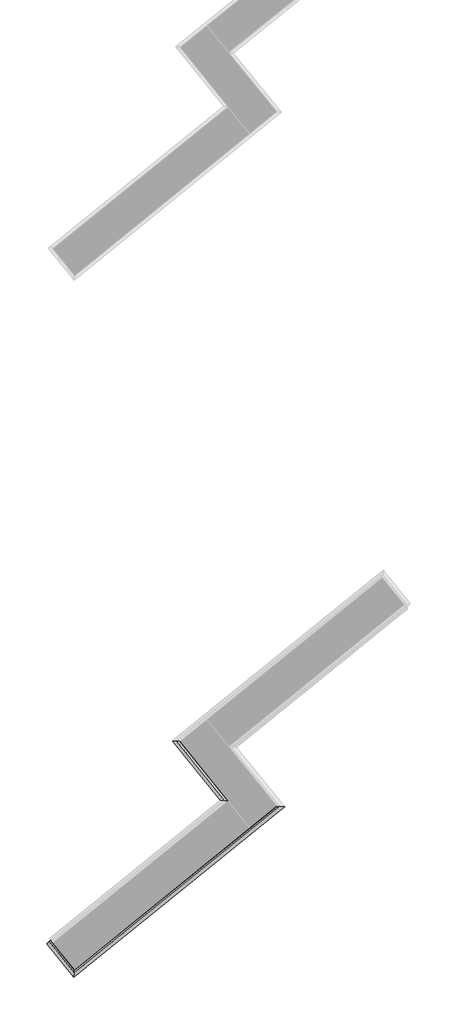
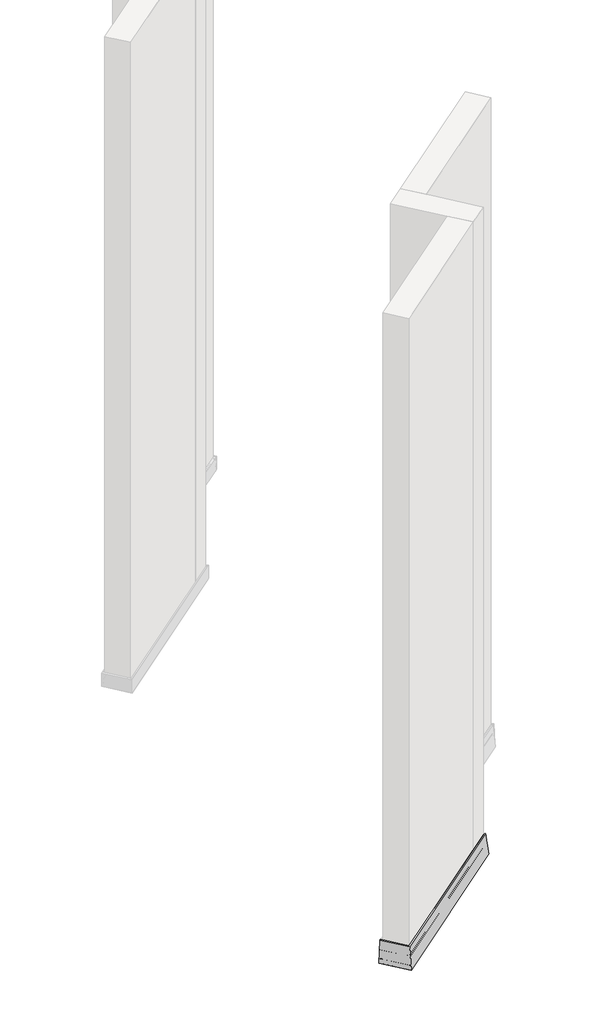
# One storey, part 2 of 21: 2 proxies.
"""IFC4 building model written with IfcOpenShell, lengths in millimetres."""

from ifc_helpers import new_model, si_unit, frame, origin, place, context, project, spatial, circle_curve, ellipse_curve, element, save
from ifc_brep_helpers import plane_surface, cylinder_surface, advanced_brep

model = new_model("IFC4")

# Units and contexts
model_context = context("Model", 3, world=origin())
ifc_project = project(units=[si_unit("LENGTHUNIT", "METRE", prefix="MILLI")], contexts=[model_context])

# Site, building, storey
site = spatial("IfcSite", under=ifc_project)
building = spatial("IfcBuilding", under=site)
storey = spatial("IfcBuildingStorey", under=building, Name="Izofleks 2D View", Elevation=0.0)

# Proxies
placement = place(None, origin())
element("IfcBuildingElementProxy", 1, Name="Wall Sweeps", at=placement, inside=storey, context=model_context, shape_type="AdvancedBrep", body=[
    advanced_brep(
    [(2125.4196152, -9156.5624148, 4.0913258), (2138.4309541, -9157.9299616, 99.0999564), (2144.7063454, -9158.5895318, 99.0999564), (2144.7063454, -9158.5895318, 97.1334422), (2147.4716817, -9158.8801804, 97.1334422), (2147.462354, -9158.8792, 95.8923058), (2142.9025972, -9158.3999503, 95.8923058), (2142.9025972, -9158.3999503, 97.8474508), (2140.0389867, -9158.0989727, 97.8474508), (2134.4354072, -9157.5100127, 59.6553004), (2140.1890187, -9158.1147417, 59.6553004), (2141.5720643, -9158.2601056, 58.8370339), (2143.8756554, -9158.5022228, 49.9746979), (2142.0834754, -9158.3138571, 48.7737404), (2142.7031479, -9158.3789873, 47.88979), (2145.5630003, -9158.6795699, 47.88979), (2145.5630003, -9158.6795699, 53.99999), (2147.3913925, -9158.8717417, 54.99999), (2147.3913925, -9158.8717417, 0.0), (2145.5630003, -9158.6795699, 0.0), (2145.5630003, -9158.6795699, 16.99999), (2138.5310764, -9157.9404849, 16.99999), (2138.5371548, -9157.9411238, 18.30079), (2140.841113, -9158.1832795, 18.30079), (2138.0747265, -9157.8925206, 27.19808), (2138.7780416, -9157.966442, 27.7479135), (2138.160271, -9157.9015117, 29.4074278), (2130.5123846, -9157.0976864, 29.4074278), (2127.3696087, -9156.7673674, 5.4018616), (2131.3758652, -9157.1884419, 5.4018616), (2131.3758652, -9157.1884419, 1.6712284), (2129.532141, -9156.9946587, 1.6712284), (2129.532141, -9156.9946587, 4.0913258), (2263.8701012, -9327.5345263, 4.0913258), (2267.9826271, -9327.9667702, 4.0913258), (2267.9826271, -9327.9667702, 1.6712284), (2269.8263512, -9328.1605534, 1.6712284), (2269.8263512, -9328.1605534, 5.4018616), (2265.8200947, -9327.7394789, 5.4018616), (2268.9628707, -9328.069798, 29.4074278), (2276.6107571, -9328.8736232, 29.4074278), (2277.2285276, -9328.9385535, 27.7479135), (2276.5252126, -9328.8646321, 27.19808), (2279.291599, -9329.1553911, 18.30079), (2276.9876408, -9328.9132353, 18.30079), (2276.9815625, -9328.9125964, 16.99999), (2284.0134863, -9329.6516814, 16.99999), (2284.0134863, -9329.6516814, 0.0), (2285.8418785, -9329.8438532, 0.0), (2285.8418785, -9329.8438532, 54.99999), (2284.0134863, -9329.6516814, 53.99999), (2284.0134863, -9329.6516814, 47.88979), (2281.1536339, -9329.3510988, 47.88979), (2280.5339615, -9329.2859686, 48.7737404), (2282.3261414, -9329.4743343, 49.9746979), (2280.0225504, -9329.2322171, 58.8370339), (2278.6395047, -9329.0868532, 59.6553004), (2272.8858933, -9328.4821243, 59.6553004), (2278.4894727, -9329.0710842, 97.8474508), (2281.3530832, -9329.3720618, 97.8474508), (2281.3530832, -9329.3720618, 95.8923058), (2285.91284, -9329.8513115, 95.8923058), (2285.9221678, -9329.8522919, 97.1334422), (2283.1568314, -9329.5616434, 97.1334422), (2283.1568314, -9329.5616434, 99.0999564), (2276.8814401, -9328.9020732, 99.0999564)],
    [
        (0, 1),
        (1, 2),
        (2, 3),
        (3, 4),
        (4, 5),
        (5, 6),
        (6, 7),
        (7, 8),
        (8, 9),
        (9, 10),
        (10, 11, ellipse_curve(frame((2140.1890187, -9158.1147417, 58.6553004), z_axis=(0.10452846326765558, 0.9945218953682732, 0.0), x_axis=(-0.9945218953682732, 0.10452846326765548, 0.0)), 1.4142136, 1.0)),
        (11, 12),
        (12, 13, ellipse_curve(frame((2142.4039865, -9158.3475442, 49.8084295), z_axis=(0.10452846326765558, 0.9945218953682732, 0.0), x_axis=(-0.9945218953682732, 0.10452846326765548, 0.0)), 1.4983408, 1.0594869)),
        (13, 14),
        (14, 15),
        (15, 16),
        (16, 17, ellipse_curve(frame((2147.0409144, -9158.8349049, 53.9789482), z_axis=(0.10452846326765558, 0.9945218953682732, 0.0), x_axis=(-0.9945218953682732, 0.1045284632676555, 0.0)), 1.4863528, 1.0510102)),
        (17, 18),
        (18, 19),
        (19, 20),
        (20, 21),
        (21, 22, ellipse_curve(frame((2138.7013325, -9157.9583796, 17.649995), z_axis=(0.10452846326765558, 0.9945218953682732, 0.0), x_axis=(-0.9945218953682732, 0.10452846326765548, 0.0)), 0.935051, 0.6611809)),
        (22, 23),
        (23, 24),
        (24, 25, ellipse_curve(frame((2138.7833218, -9157.966997, 27.2421879), z_axis=(0.10452846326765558, 0.9945218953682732, 0.0), x_axis=(-0.994521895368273, 0.10452846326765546, 0.0)), 0.7152237, 0.5057396)),
        (25, 26),
        (26, 27),
        (27, 28),
        (28, 29),
        (29, 30),
        (30, 31),
        (31, 32),
        (32, 0),
        (33, 34),
        (34, 35),
        (35, 36),
        (36, 37),
        (37, 38),
        (38, 39),
        (39, 40),
        (40, 41),
        (41, 42, ellipse_curve(frame((2277.2338078, -9328.9391085, 27.2421879), z_axis=(-0.1045284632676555, -0.9945218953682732, 0.0), x_axis=(-0.9945218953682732, 0.10452846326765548, 0.0)), 0.7152237, 0.5057396)),
        (42, 43),
        (43, 44),
        (44, 45, ellipse_curve(frame((2277.1518186, -9328.9304911, 17.649995), z_axis=(-0.1045284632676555, -0.9945218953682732, 0.0), x_axis=(-0.9945218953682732, 0.1045284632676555, 0.0)), 0.935051, 0.6611809)),
        (45, 46),
        (46, 47),
        (47, 48),
        (48, 49),
        (49, 50, ellipse_curve(frame((2285.4914005, -9329.8070165, 53.9789482), z_axis=(-0.1045284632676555, -0.9945218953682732, 0.0), x_axis=(-0.9945218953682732, 0.10452846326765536, 0.0)), 1.4863528, 1.0510102)),
        (50, 51),
        (51, 52),
        (52, 53),
        (53, 54, ellipse_curve(frame((2280.8544726, -9329.3196557, 49.8084295), z_axis=(-0.1045284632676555, -0.9945218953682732, 0.0), x_axis=(-0.9945218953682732, 0.1045284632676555, 0.0)), 1.4983408, 1.0594869)),
        (54, 55),
        (55, 56, ellipse_curve(frame((2278.6395047, -9329.0868532, 58.6553004), z_axis=(-0.1045284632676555, -0.9945218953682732, 0.0), x_axis=(-0.9945218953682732, 0.1045284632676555, 0.0)), 1.4142136, 1.0)),
        (56, 57),
        (57, 58),
        (58, 59),
        (59, 60),
        (60, 61),
        (61, 62),
        (62, 63),
        (63, 64),
        (64, 65),
        (65, 33),
        (0, 33),
        (65, 1),
        (64, 2),
        (63, 3),
        (62, 4),
        (61, 5),
        (60, 6),
        (59, 7),
        (58, 8),
        (57, 9),
        (56, 10),
        (55, 11),
        (54, 12),
        (53, 13),
        (52, 14),
        (51, 15),
        (50, 16),
        (49, 17),
        (48, 18),
        (47, 19),
        (46, 20),
        (45, 21),
        (44, 22),
        (43, 23),
        (42, 24),
        (41, 25),
        (40, 26),
        (39, 27),
        (38, 28),
        (37, 29),
        (36, 30),
        (35, 31),
        (34, 32),
    ],
    [
        plane_surface(frame((2147.3913925, -9158.8717417, -304.8), z_axis=(0.10452846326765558, 0.9945218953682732, 0.0), x_axis=(0.9945218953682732, -0.10452846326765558, 0.0))),
        plane_surface(frame((2285.8418785, -9329.8438532, 304.8), z_axis=(-0.1045284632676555, -0.9945218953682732, 0.0), x_axis=(-0.9945218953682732, 0.1045284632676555, 0.0))),
        plane_surface(frame((2125.4196152, -9156.5624148, 4.0913258), z_axis=(-0.7734878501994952, -0.6263581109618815, 0.09691265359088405), x_axis=(0.6293203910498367, -0.7771459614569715, 0.0))),
        plane_surface(frame((2138.4309541, -9157.9299616, 99.0999564), z_axis=(0.0, 0.0, 1.0), x_axis=(0.6293203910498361, -0.777145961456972, 0.0))),
        plane_surface(frame((2144.7063454, -9158.5895318, 99.0999564), z_axis=(0.777145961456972, 0.6293203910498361, 0.0), x_axis=(0.6293203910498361, -0.777145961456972, 0.0))),
        plane_surface(frame((2144.7063454, -9158.5895318, 97.1334422), z_axis=(0.0, 0.0, 1.0), x_axis=(0.6293203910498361, -0.777145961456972, 0.0))),
        plane_surface(frame((2147.4716817, -9158.8801804, 97.1334422), z_axis=(0.7771348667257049, 0.6293114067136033, -0.0053434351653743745), x_axis=(0.6293203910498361, -0.777145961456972, 0.0))),
        plane_surface(frame((2147.462354, -9158.8792, 95.8923058), z_axis=(0.0, 0.0, -1.0), x_axis=(0.6293203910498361, -0.777145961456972, 0.0))),
        plane_surface(frame((2142.9025972, -9158.3999503, 95.8923058), z_axis=(-0.777145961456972, -0.6293203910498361, 0.0), x_axis=(0.6293203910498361, -0.777145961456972, 0.0))),
        plane_surface(frame((2142.9025972, -9158.3999503, 97.8474508), z_axis=(0.0, 0.0, -1.0), x_axis=(0.6293203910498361, -0.777145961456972, 0.0))),
        plane_surface(frame((2140.0389867, -9158.0989727, 97.8474508), z_axis=(0.7729515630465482, 0.6259238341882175, -0.1037556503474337), x_axis=(0.6293203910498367, -0.7771459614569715, 0.0))),
        plane_surface(frame((2134.4354072, -9157.5100127, 59.6553004), z_axis=(0.0, 0.0, 1.0), x_axis=(0.6293203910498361, -0.777145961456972, 0.0))),
        cylinder_surface(frame((2143.4117056, -9162.0944286, 58.6553004), z_axis=(-0.629320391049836, 0.7771459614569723, 0.0), x_axis=(0.7642047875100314, 0.618840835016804, 0.1817334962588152)), 1.0),
        plane_surface(frame((2141.5720643, -9158.2601056, 58.8370339), z_axis=(0.7642047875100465, 0.6188408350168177, 0.18173349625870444), x_axis=(0.6293203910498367, -0.7771459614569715, 0.0))),
        cylinder_surface(frame((2144.6355908, -9161.1033459, 49.8084295), z_axis=(-0.6293203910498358, 0.7771459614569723, 0.0), x_axis=(-0.16715552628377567, -0.1353598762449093, -0.9765944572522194)), 1.0594869),
        plane_surface(frame((2142.0834754, -9158.3138571, 48.7737404), z_axis=(0.6955364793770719, 0.5632343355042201, 0.44608977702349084), x_axis=(0.6293203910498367, -0.7771459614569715, 0.0))),
        plane_surface(frame((2142.7031479, -9158.3789873, 47.88979), z_axis=(0.0, 0.0, 1.0), x_axis=(0.6293203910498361, -0.777145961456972, 0.0))),
        plane_surface(frame((2145.5630003, -9158.6795699, 47.88979), z_axis=(-0.777145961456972, -0.6293203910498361, 0.0), x_axis=(0.6293203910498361, -0.777145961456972, 0.0))),
        cylinder_surface(frame((2147.1977351, -9159.0285623, 53.9789482), z_axis=(-0.6293203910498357, 0.7771459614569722, 0.0), x_axis=(0.18425834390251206, 0.14920946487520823, 0.9714861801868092)), 1.0510102),
        plane_surface(frame((2147.3913925, -9158.8717417, 54.99999), z_axis=(0.777145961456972, 0.6293203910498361, 0.0), x_axis=(0.6293203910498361, -0.777145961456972, 0.0))),
        plane_surface(frame((2147.3913925, -9158.8717417, 0.0), z_axis=(0.0, 0.0, -1.0), x_axis=(0.6293203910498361, -0.777145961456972, 0.0))),
        plane_surface(frame((2145.5630003, -9158.6795699, 0.0), z_axis=(-0.777145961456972, -0.6293203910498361, 0.0), x_axis=(0.6293203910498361, -0.777145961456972, 0.0))),
        plane_surface(frame((2145.5630003, -9158.6795699, 16.99999), z_axis=(0.0, 0.0, -1.0), x_axis=(0.6293203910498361, -0.777145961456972, 0.0))),
        cylinder_surface(frame((2142.5896815, -9162.7600906, 17.649995), z_axis=(-0.6293203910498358, 0.7771459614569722, 0.0), x_axis=(-0.1422838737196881, -0.11521920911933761, 0.9830970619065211)), 0.6611809),
        plane_surface(frame((2138.5371548, -9157.9411238, 18.30079), z_axis=(0.0, 0.0, 1.0), x_axis=(0.6293203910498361, -0.777145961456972, 0.0))),
        plane_surface(frame((2140.841113, -9158.1832795, 18.30079), z_axis=(-0.7588248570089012, -0.6144842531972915, -0.21585629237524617), x_axis=(0.6293203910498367, -0.7771459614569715, 0.0))),
        cylinder_surface(frame((2142.6349848, -9162.7234047, 27.2421879), z_axis=(-0.6293203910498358, 0.7771459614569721, 0.0), x_axis=(-0.00576896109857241, -0.004671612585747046, 0.9999724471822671)), 0.5057396),
        plane_surface(frame((2138.7780416, -9157.966442, 27.7479135), z_axis=(-0.7512763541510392, -0.6083715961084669, -0.2558668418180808), x_axis=(0.6293203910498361, -0.777145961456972, 0.0))),
        plane_surface(frame((2138.160271, -9157.9015117, 29.4074278), z_axis=(0.0, 0.0, -1.0), x_axis=(0.6293203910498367, -0.7771459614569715, 0.0))),
        plane_surface(frame((2130.5123846, -9157.0976864, 29.4074278), z_axis=(0.7738008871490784, 0.626611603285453, -0.09268271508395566), x_axis=(0.6293203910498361, -0.777145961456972, 0.0))),
        plane_surface(frame((2127.3696087, -9156.7673674, 5.4018616), z_axis=(0.0, 0.0, 1.0), x_axis=(0.6293203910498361, -0.777145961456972, 0.0))),
        plane_surface(frame((2131.3758652, -9157.1884419, 5.4018616), z_axis=(0.777145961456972, 0.6293203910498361, 0.0), x_axis=(0.6293203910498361, -0.777145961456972, 0.0))),
        plane_surface(frame((2131.3758652, -9157.1884419, 1.6712284), z_axis=(0.0, 0.0, -1.0), x_axis=(0.6293203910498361, -0.777145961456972, 0.0))),
        plane_surface(frame((2129.532141, -9156.9946587, 1.6712284), z_axis=(-0.777145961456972, -0.6293203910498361, 0.0), x_axis=(0.6293203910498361, -0.777145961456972, 0.0))),
        plane_surface(frame((2129.532141, -9156.9946587, 4.0913258), z_axis=(0.0, 0.0, -1.0), x_axis=(0.6293203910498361, -0.777145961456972, 0.0))),
    ],
    [
        (0, [[1, 2, 3, 4, 5, 6, 7, 8, 9, 10, 11, 12, 13, 14, 15, 16, 17, 18, 19, 20, 21, 22, 23, 24, 25, 26, 27, 28, 29, 30, 31, 32, 33]]),
        (1, [[34, 35, 36, 37, 38, 39, 40, 41, 42, 43, 44, 45, 46, 47, 48, 49, 50, 51, 52, 53, 54, 55, 56, 57, 58, 59, 60, 61, 62, 63, 64, 65, 66]]),
        (2, [[-1, 67, -66, 68]]),
        (3, [[-2, -68, -65, 69]]),
        (4, [[-3, -69, -64, 70]]),
        (5, [[-4, -70, -63, 71]]),
        (6, [[-5, -71, -62, 72]]),
        (7, [[-6, -72, -61, 73]]),
        (8, [[-7, -73, -60, 74]]),
        (9, [[-8, -74, -59, 75]]),
        (10, [[-9, -75, -58, 76]]),
        (11, [[-10, -76, -57, 77]]),
        (12, [[-11, -77, -56, 78]]),
        (13, [[-12, -78, -55, 79]]),
        (14, [[-13, -79, -54, 80]]),
        (15, [[-14, -80, -53, 81]]),
        (16, [[-15, -81, -52, 82]]),
        (17, [[-16, -82, -51, 83]]),
        (18, [[-17, -83, -50, 84]]),
        (19, [[-18, -84, -49, 85]]),
        (20, [[-19, -85, -48, 86]]),
        (21, [[-20, -86, -47, 87]]),
        (22, [[-21, -87, -46, 88]]),
        (23, [[-22, -88, -45, 89]]),
        (24, [[-23, -89, -44, 90]]),
        (25, [[-24, -90, -43, 91]]),
        (26, [[-25, -91, -42, 92]]),
        (27, [[-26, -92, -41, 93]]),
        (28, [[-27, -93, -40, 94]]),
        (29, [[-28, -94, -39, 95]]),
        (30, [[-29, -95, -38, 96]]),
        (31, [[-30, -96, -37, 97]]),
        (32, [[-31, -97, -36, 98]]),
        (33, [[-32, -98, -35, 99]]),
        (34, [[-33, -99, -34, -67]]),
    ],
),
])
element("IfcBuildingElementProxy", 2, Name="Wall Sweeps", at=placement, inside=storey, context=model_context, shape_type="AdvancedBrep", body=[
    advanced_brep(
    [(2448.4602911, -9346.9357371, 4.0913258), (2444.3477653, -9346.5034932, 4.0913258), (2444.3477653, -9346.5034932, 1.6712284), (2442.5040411, -9346.30971, 1.6712284), (2442.5040411, -9346.30971, 5.4018616), (2446.5102976, -9346.7307845, 5.4018616), (2443.3675216, -9346.4004654, 29.4074278), (2435.7196353, -9345.5966402, 29.4074278), (2435.1018647, -9345.5317099, 27.7479135), (2435.8051798, -9345.6056313, 27.19808), (2433.0387933, -9345.3148723, 18.30079), (2435.3427515, -9345.5570281, 18.30079), (2435.3488299, -9345.557667, 16.99999), (2428.316906, -9344.818582, 16.99999), (2428.316906, -9344.818582, 0.0), (2426.4885138, -9344.6264102, 0.0), (2426.4885138, -9344.6264102, 54.99999), (2428.316906, -9344.818582, 53.99999), (2428.316906, -9344.818582, 47.88979), (2431.1767584, -9345.1191646, 47.88979), (2431.7964309, -9345.1842948, 48.7737404), (2430.0042509, -9344.9959291, 49.9746979), (2432.307842, -9345.2380463, 58.8370339), (2433.6908876, -9345.3834102, 59.6553004), (2439.444499, -9345.9881391, 59.6553004), (2433.8409196, -9345.3991792, 97.8474508), (2430.9773091, -9345.0982016, 97.8474508), (2430.9773091, -9345.0982016, 95.8923058), (2426.4175523, -9344.6189519, 95.8923058), (2426.4082246, -9344.6179715, 97.1334422), (2429.1735609, -9344.90862, 97.1334422), (2429.1735609, -9344.90862, 99.0999564), (2435.4489522, -9345.5681903, 99.0999564), (1762.8154081, -9741.6437345, 4.0913258), (1770.004851, -9735.8218384, 99.0999564), (1773.4723318, -9733.0139279, 99.0999564), (1773.4723318, -9733.0139279, 97.1334422), (1775.0003242, -9731.776584, 97.1334422), (1774.9951702, -9731.7807577, 95.8923058), (1772.4756669, -9733.8210112, 95.8923058), (1772.4756669, -9733.8210112, 97.8474508), (1770.8933728, -9735.1023277, 97.8474508), (1767.7971031, -9737.6096374, 59.6553004), (1770.9762733, -9735.0351961, 59.6553004), (1771.7404781, -9734.4163553, 58.8370339), (1773.0133322, -9733.3856184, 49.9746979), (1772.0230594, -9734.1875255, 48.7737404), (1772.3654607, -9733.9102544, 47.88979), (1773.9456782, -9732.6306195, 47.88979), (1773.9456782, -9732.6306195, 53.99999), (1774.9559602, -9731.8125092, 54.99999), (1774.9559602, -9731.8125092, 0.0), (1773.9456782, -9732.6306195, 0.0), (1773.9456782, -9732.6306195, 16.99999), (1770.0601738, -9735.7770389, 16.99999), (1770.0635324, -9735.7743192, 18.30079), (1771.3365894, -9734.7434179, 18.30079), (1769.8080167, -9735.9812317, 27.19808), (1770.1966349, -9735.6665349, 27.7479135), (1769.8552845, -9735.942955, 29.4074278), (1765.6294287, -9739.3649856, 29.4074278), (1763.8928812, -9740.771214, 5.4018616), (1766.1065467, -9738.978623, 5.4018616), (1766.1065467, -9738.978623, 1.6712284), (1765.087793, -9739.8035935, 1.6712284), (1765.087793, -9739.8035935, 4.0913258), (1841.3197158, -9838.5884808, 4.0913258), (1841.7519597, -9834.475955, 4.0913258), (1841.7519597, -9834.475955, 1.6712284), (1841.9457429, -9832.6322309, 1.6712284), (1841.9457429, -9832.6322309, 5.4018616), (1841.5246684, -9836.6384873, 5.4018616), (1841.8549875, -9833.4957114, 29.4074278), (1842.6588127, -9825.847825, 29.4074278), (1842.723743, -9825.2300544, 27.7479135), (1842.6498216, -9825.9333695, 27.19808), (1842.9405806, -9823.166983, 18.30079), (1842.6984248, -9825.4709412, 18.30079), (1842.6977859, -9825.4770196, 16.99999), (1843.4368709, -9818.4450957, 16.99999), (1843.4368709, -9818.4450957, 0.0), (1843.6290427, -9816.6167035, 0.0), (2348.7739176, -9407.5584493, 0.0), (1843.6290427, -9816.6167035, 54.99999), (1843.4368709, -9818.4450957, 53.99999), (1843.4368709, -9818.4450957, 47.88979), (1843.1362883, -9821.3049481, 47.88979), (1843.0711581, -9821.9246206, 48.7737404), (1843.2595238, -9820.1324406, 49.9746979), (1843.0174067, -9822.4360317, 58.8370339), (1842.8720427, -9823.8190773, 59.6553004), (1842.2673138, -9829.5726888, 59.6553004), (1842.8562737, -9823.9691094, 97.8474508), (1843.1572513, -9821.1054988, 97.8474508), (1843.1572513, -9821.1054988, 95.8923058), (1843.636501, -9816.545742, 95.8923058), (1843.6374814, -9816.5364143, 97.1334422), (1843.3468329, -9819.3017506, 97.1334422), (1843.3468329, -9819.3017506, 99.0999564), (1842.6872627, -9825.5771419, 99.0999564), (1780.6970036, -9738.9021074, 0.0)],
    [
        (0, 1),
        (1, 2),
        (2, 3),
        (3, 4),
        (4, 5),
        (5, 6),
        (6, 7),
        (7, 8),
        (8, 9, ellipse_curve(frame((2435.0965845, -9345.5311549, 27.2421879), z_axis=(0.1045284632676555, 0.9945218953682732, 0.0), x_axis=(0.9945218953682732, -0.10452846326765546, 0.0)), 0.7152237, 0.5057396)),
        (9, 10),
        (10, 11),
        (11, 12, ellipse_curve(frame((2435.1785737, -9345.5397723, 17.649995), z_axis=(0.1045284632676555, 0.9945218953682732, 0.0), x_axis=(0.9945218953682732, -0.10452846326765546, 0.0)), 0.935051, 0.6611809)),
        (12, 13),
        (13, 14),
        (14, 15),
        (15, 16),
        (16, 17, ellipse_curve(frame((2426.8389918, -9344.663247, 53.9789482), z_axis=(0.1045284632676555, 0.9945218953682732, 0.0), x_axis=(0.9945218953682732, -0.10452846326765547, 0.0)), 1.4863528, 1.0510102)),
        (17, 18),
        (18, 19),
        (19, 20),
        (20, 21, ellipse_curve(frame((2431.4759198, -9345.1506077, 49.8084295), z_axis=(0.1045284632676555, 0.9945218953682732, 0.0), x_axis=(0.9945218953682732, -0.10452846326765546, 0.0)), 1.4983408, 1.0594869)),
        (21, 22),
        (22, 23, ellipse_curve(frame((2433.6908876, -9345.3834102, 58.6553004), z_axis=(0.1045284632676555, 0.9945218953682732, 0.0), x_axis=(0.9945218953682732, -0.10452846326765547, 0.0)), 1.4142136, 1.0)),
        (23, 24),
        (24, 25),
        (25, 26),
        (26, 27),
        (27, 28),
        (28, 29),
        (29, 30),
        (30, 31),
        (31, 32),
        (32, 0),
        (33, 34),
        (34, 35),
        (35, 36),
        (36, 37),
        (37, 38),
        (38, 39),
        (39, 40),
        (40, 41),
        (41, 42),
        (42, 43),
        (43, 44, circle_curve(frame((1770.9762733, -9735.0351961, 58.6553004), z_axis=(-0.6293203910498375, 0.7771459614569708, 0.0), x_axis=(0.7642047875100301, 0.6188408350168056, 0.18173349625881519)), 1.0)),
        (44, 45),
        (45, 46, circle_curve(frame((1772.2001585, -9734.0441135, 49.8084295), z_axis=(-0.6293203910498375, 0.7771459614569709, 0.0), x_axis=(-0.16715552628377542, -0.1353598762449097, -0.9765944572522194)), 1.0594869)),
        (46, 47),
        (47, 48),
        (48, 49),
        (49, 50, circle_curve(frame((1774.7623028, -9731.9693299, 53.9789482), z_axis=(-0.6293203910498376, 0.777145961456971, 0.0), x_axis=(0.18425834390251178, 0.14920946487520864, 0.9714861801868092)), 1.0510102)),
        (50, 51),
        (51, 52),
        (52, 53),
        (53, 54),
        (54, 55, circle_curve(frame((1770.1542492, -9735.7008582, 17.649995), z_axis=(-0.6293203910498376, 0.7771459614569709, 0.0), x_axis=(-0.1422838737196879, -0.11521920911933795, 0.9830970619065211)), 0.6611809)),
        (55, 56),
        (56, 57),
        (57, 58, circle_curve(frame((1770.1995525, -9735.6641723, 27.2421879), z_axis=(-0.6293203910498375, 0.7771459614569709, 0.0), x_axis=(-0.005768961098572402, -0.004671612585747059, 0.9999724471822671)), 0.5057396)),
        (58, 59),
        (59, 60),
        (60, 61),
        (61, 62),
        (62, 63),
        (63, 64),
        (64, 65),
        (65, 33),
        (0, 66),
        (66, 67),
        (67, 1),
        (67, 68),
        (68, 2),
        (68, 69),
        (69, 3),
        (69, 70),
        (70, 4),
        (70, 71),
        (71, 5),
        (71, 72),
        (72, 6),
        (72, 73),
        (73, 7),
        (73, 74),
        (74, 8),
        (74, 75, ellipse_curve(frame((1842.724298, -9825.2247742, 27.2421879), z_axis=(0.9945218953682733, -0.10452846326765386, 0.0), x_axis=(0.1045284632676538, 0.9945218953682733, 0.0)), 0.7152237, 0.5057396)),
        (75, 9),
        (75, 76),
        (76, 10),
        (76, 77),
        (77, 11),
        (77, 78, ellipse_curve(frame((1842.7156806, -9825.3067635, 17.649995), z_axis=(0.9945218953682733, -0.10452846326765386, 0.0), x_axis=(0.1045284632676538, 0.9945218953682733, 0.0)), 0.935051, 0.6611809)),
        (78, 12),
        (78, 79),
        (79, 13),
        (79, 80),
        (80, 14),
        (80, 81),
        (81, 82),
        (82, 15),
        (81, 83),
        (83, 16),
        (83, 84, ellipse_curve(frame((1843.592206, -9816.9671816, 53.9789482), z_axis=(0.9945218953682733, -0.10452846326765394, 0.0), x_axis=(0.10452846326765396, 0.9945218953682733, 0.0)), 1.4863528, 1.0510102)),
        (84, 17),
        (84, 85),
        (85, 18),
        (85, 86),
        (86, 19),
        (86, 87),
        (87, 20),
        (87, 88, ellipse_curve(frame((1843.1048452, -9821.6041095, 49.8084295), z_axis=(0.9945218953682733, -0.10452846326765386, 0.0), x_axis=(0.1045284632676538, 0.9945218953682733, 0.0)), 1.4983408, 1.0594869)),
        (88, 21),
        (88, 89),
        (89, 22),
        (89, 90, ellipse_curve(frame((1842.8720427, -9823.8190773, 58.6553004), z_axis=(0.9945218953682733, -0.1045284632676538, 0.0), x_axis=(0.1045284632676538, 0.9945218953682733, 0.0)), 1.4142136, 1.0)),
        (90, 23),
        (90, 91),
        (91, 24),
        (91, 92),
        (92, 25),
        (92, 93),
        (93, 26),
        (93, 94),
        (94, 27),
        (94, 95),
        (95, 28),
        (95, 96),
        (96, 29),
        (96, 97),
        (97, 30),
        (97, 98),
        (98, 31),
        (98, 99),
        (99, 32),
        (99, 66),
        (66, 33),
        (65, 67),
        (64, 68),
        (63, 69),
        (62, 70),
        (61, 71),
        (60, 72),
        (59, 73),
        (58, 74),
        (57, 75),
        (56, 76),
        (55, 77),
        (54, 78),
        (53, 79),
        (52, 80),
        (51, 100),
        (100, 81),
        (50, 83),
        (49, 84),
        (48, 85),
        (47, 86),
        (46, 87),
        (45, 88),
        (44, 89),
        (43, 90),
        (42, 91),
        (41, 92),
        (40, 93),
        (39, 94),
        (38, 95),
        (37, 96),
        (36, 97),
        (35, 98),
        (34, 99),
    ],
    [
        plane_surface(frame((2426.4885138, -9344.6264102, 304.8), z_axis=(0.1045284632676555, 0.9945218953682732, 0.0), x_axis=(-0.9945218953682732, 0.1045284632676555, 0.0))),
        plane_surface(frame((2318.9581332, -9291.2882355, 0.0), z_axis=(-0.6293203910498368, 0.7771459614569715, 0.0), x_axis=(0.7771459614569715, 0.6293203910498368, 0.0))),
        plane_surface(frame((2448.4602911, -9346.9357371, 4.0913258), z_axis=(0.0, 0.0, -1.0000000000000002), x_axis=(-0.7771459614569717, -0.6293203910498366, 0.0))),
        plane_surface(frame((2444.3477653, -9346.5034932, 4.0913258), z_axis=(0.6293203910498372, -0.7771459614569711, 0.0), x_axis=(-0.7771459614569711, -0.6293203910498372, 0.0))),
        plane_surface(frame((2444.3477653, -9346.5034932, 1.6712284), z_axis=(0.0, 0.0, -1.0), x_axis=(-0.7771459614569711, -0.6293203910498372, 0.0))),
        plane_surface(frame((2442.5040411, -9346.30971, 1.6712284), z_axis=(-0.6293203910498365, 0.7771459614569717, 0.0), x_axis=(-0.7771459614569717, -0.6293203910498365, 0.0))),
        plane_surface(frame((2442.5040411, -9346.30971, 5.4018616), z_axis=(0.0, 0.0, 1.0), x_axis=(-0.7771459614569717, -0.6293203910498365, 0.0))),
        plane_surface(frame((2446.5102976, -9346.7307845, 5.4018616), z_axis=(-0.6266116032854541, 0.7738008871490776, -0.09268271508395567), x_axis=(-0.7771459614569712, -0.6293203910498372, 0.0))),
        plane_surface(frame((2443.3675216, -9346.4004654, 29.4074278), z_axis=(0.0, 0.0, -1.0000000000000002), x_axis=(-0.7771459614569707, -0.6293203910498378, 0.0))),
        plane_surface(frame((2435.7196353, -9345.5966402, 29.4074278), z_axis=(0.6083715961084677, -0.7512763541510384, -0.2558668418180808), x_axis=(-0.7771459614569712, -0.629320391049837, 0.0))),
        cylinder_surface(frame((2430.3401768, -9349.3828179, 27.2421879), z_axis=(0.7771459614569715, 0.6293203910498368, 0.0), x_axis=(0.004671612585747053, -0.005768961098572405, 0.9999724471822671)), 0.5057396),
        plane_surface(frame((2435.8051798, -9345.6056313, 27.19808), z_axis=(0.614484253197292, -0.7588248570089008, -0.21585629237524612), x_axis=(-0.777145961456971, -0.6293203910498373, 0.0))),
        plane_surface(frame((2433.0387933, -9345.3148723, 18.30079), z_axis=(0.0, 0.0, 1.0), x_axis=(-0.7771459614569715, -0.6293203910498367, 0.0))),
        cylinder_surface(frame((2430.3768627, -9349.4281213, 17.649995), z_axis=(0.7771459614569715, 0.6293203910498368, 0.0), x_axis=(0.1152192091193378, -0.14228387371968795, 0.9830970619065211)), 0.6611809),
        plane_surface(frame((2435.3488299, -9345.557667, 16.99999), z_axis=(0.0, 0.0, -1.0000000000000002), x_axis=(-0.7771459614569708, -0.6293203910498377, 0.0))),
        plane_surface(frame((2428.316906, -9344.818582, 16.99999), z_axis=(0.6293203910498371, -0.7771459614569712, 0.0), x_axis=(-0.7771459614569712, -0.6293203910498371, 0.0))),
        plane_surface(frame((2428.316906, -9344.818582, 0.0), z_axis=(0.0, 0.0, -1.0), x_axis=(-0.7771459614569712, -0.6293203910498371, 0.0))),
        plane_surface(frame((2426.4885138, -9344.6264102, 0.0), z_axis=(-0.629320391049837, 0.7771459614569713, 0.0), x_axis=(-0.7771459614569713, -0.629320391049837, 0.0))),
        cylinder_surface(frame((2426.6453344, -9344.8200676, 53.9789482), z_axis=(0.7771459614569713, 0.6293203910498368, 0.0), x_axis=(-0.14920946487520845, 0.18425834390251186, 0.9714861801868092)), 1.0510102),
        plane_surface(frame((2428.316906, -9344.818582, 53.99999), z_axis=(0.6293203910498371, -0.7771459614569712, 0.0), x_axis=(-0.7771459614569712, -0.6293203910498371, 0.0))),
        plane_surface(frame((2428.316906, -9344.818582, 47.88979), z_axis=(0.0, 0.0, 1.0), x_axis=(-0.7771459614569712, -0.6293203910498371, 0.0))),
        plane_surface(frame((2431.1767584, -9345.1191646, 47.88979), z_axis=(-0.5632343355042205, 0.6955364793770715, 0.44608977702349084), x_axis=(-0.7771459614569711, -0.6293203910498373, 0.0))),
        cylinder_surface(frame((2428.720118, -9347.382212, 49.8084295), z_axis=(0.7771459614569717, 0.629320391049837, 0.0), x_axis=(0.13535987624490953, -0.1671555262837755, -0.9765944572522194)), 1.0594869),
        plane_surface(frame((2430.0042509, -9344.9959291, 49.9746979), z_axis=(-0.6188408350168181, 0.7642047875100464, 0.18173349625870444), x_axis=(-0.7771459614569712, -0.6293203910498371, 0.0))),
        cylinder_surface(frame((2429.7112007, -9348.6060971, 58.6553004), z_axis=(0.7771459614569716, 0.629320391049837, 0.0), x_axis=(-0.618840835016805, 0.7642047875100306, 0.1817334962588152)), 1.0),
        plane_surface(frame((2433.6908876, -9345.3834102, 59.6553004), z_axis=(0.0, 0.0, 1.0), x_axis=(-0.7771459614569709, -0.6293203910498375, 0.0))),
        plane_surface(frame((2439.444499, -9345.9881391, 59.6553004), z_axis=(-0.6259238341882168, 0.7729515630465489, -0.10375565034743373), x_axis=(-0.7771459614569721, -0.6293203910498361, 0.0))),
        plane_surface(frame((2433.8409196, -9345.3991792, 97.8474508), z_axis=(0.0, 0.0, -1.0), x_axis=(-0.7771459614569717, -0.6293203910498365, 0.0))),
        plane_surface(frame((2430.9773091, -9345.0982016, 97.8474508), z_axis=(0.6293203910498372, -0.7771459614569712, 0.0), x_axis=(-0.7771459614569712, -0.6293203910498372, 0.0))),
        plane_surface(frame((2430.9773091, -9345.0982016, 95.8923058), z_axis=(0.0, 0.0, -1.0000000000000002), x_axis=(-0.7771459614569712, -0.6293203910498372, 0.0))),
        plane_surface(frame((2426.4175523, -9344.6189519, 95.8923058), z_axis=(-0.6293114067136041, 0.7771348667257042, -0.0053434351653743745), x_axis=(-0.7771459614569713, -0.6293203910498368, 0.0))),
        plane_surface(frame((2426.4082246, -9344.6179715, 97.1334422), z_axis=(0.0, 0.0, 1.0000000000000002), x_axis=(-0.7771459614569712, -0.6293203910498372, 0.0))),
        plane_surface(frame((2429.1735609, -9344.90862, 97.1334422), z_axis=(-0.6293203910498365, 0.7771459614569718, 0.0), x_axis=(-0.7771459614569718, -0.6293203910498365, 0.0))),
        plane_surface(frame((2429.1735609, -9344.90862, 99.0999564), z_axis=(0.0, 0.0, 1.0000000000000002), x_axis=(-0.7771459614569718, -0.6293203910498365, 0.0))),
        plane_surface(frame((2435.4489522, -9345.5681903, 99.0999564), z_axis=(0.6263581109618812, -0.7734878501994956, 0.09691265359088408), x_axis=(-0.7771459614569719, -0.6293203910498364, 0.0))),
        plane_surface(frame((1841.3197158, -9838.5884808, 4.0913258), z_axis=(0.0, 0.0, -1.0000000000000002), x_axis=(-0.629320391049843, 0.7771459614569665, 0.0))),
        plane_surface(frame((1841.7519597, -9834.475955, 4.0913258), z_axis=(-0.777145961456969, -0.6293203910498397, 0.0), x_axis=(-0.6293203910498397, 0.777145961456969, 0.0))),
        plane_surface(frame((1841.7519597, -9834.475955, 1.6712284), z_axis=(0.0, 0.0, -1.0), x_axis=(-0.6293203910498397, 0.777145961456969, 0.0))),
        plane_surface(frame((1841.9457429, -9832.6322309, 1.6712284), z_axis=(0.7771459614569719, 0.6293203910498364, 0.0), x_axis=(-0.6293203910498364, 0.7771459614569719, 0.0))),
        plane_surface(frame((1841.9457429, -9832.6322309, 5.4018616), z_axis=(0.0, 0.0, 1.0000000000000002), x_axis=(-0.6293203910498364, 0.7771459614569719, 0.0))),
        plane_surface(frame((1841.5246684, -9836.6384873, 5.4018616), z_axis=(0.7738008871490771, 0.6266116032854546, -0.0926827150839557), x_axis=(-0.6293203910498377, 0.7771459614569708, 0.0))),
        plane_surface(frame((1841.8549875, -9833.4957114, 29.4074278), z_axis=(0.0, 0.0, -1.0), x_axis=(-0.6293203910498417, 0.7771459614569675, 0.0))),
        plane_surface(frame((1842.6588127, -9825.847825, 29.4074278), z_axis=(-0.7512763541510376, -0.6083715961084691, -0.25586684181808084), x_axis=(-0.6293203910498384, 0.7771459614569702, 0.0))),
        cylinder_surface(frame((1838.872635, -9820.4683665, 27.2421879), z_axis=(0.6293203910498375, -0.7771459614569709, 0.0), x_axis=(-0.005768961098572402, -0.004671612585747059, 0.9999724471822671)), 0.5057396),
        plane_surface(frame((1842.6498216, -9825.9333695, 27.19808), z_axis=(-0.7588248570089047, -0.614484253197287, -0.21585629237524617), x_axis=(-0.6293203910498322, 0.7771459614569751, 0.0))),
        plane_surface(frame((1842.9405806, -9823.166983, 18.30079), z_axis=(0.0, 0.0, 1.0), x_axis=(-0.6293203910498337, 0.7771459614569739, 0.0))),
        cylinder_surface(frame((1838.8273317, -9820.5050524, 17.649995), z_axis=(0.6293203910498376, -0.7771459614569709, 0.0), x_axis=(-0.1422838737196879, -0.11521920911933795, 0.9830970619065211)), 0.6611809),
        plane_surface(frame((1842.6977859, -9825.4770196, 16.99999), z_axis=(0.0, 0.0, -1.0), x_axis=(-0.6293203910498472, 0.777145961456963, 0.0))),
        plane_surface(frame((1843.4368709, -9818.4450957, 16.99999), z_axis=(-0.7771459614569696, -0.6293203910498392, 0.0), x_axis=(-0.6293203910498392, 0.7771459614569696, 0.0))),
        plane_surface(frame((1843.4368709, -9818.4450957, 0.0), z_axis=(0.0, 0.0, -1.0), x_axis=(-0.6293203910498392, 0.7771459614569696, 0.0))),
        plane_surface(frame((1843.6290427, -9816.6167035, 0.0), z_axis=(0.7771459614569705, 0.6293203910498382, 0.0), x_axis=(-0.6293203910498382, 0.7771459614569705, 0.0))),
        cylinder_surface(frame((1843.4353853, -9816.7735242, 53.9789482), z_axis=(0.6293203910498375, -0.7771459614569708, 0.0), x_axis=(0.18425834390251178, 0.14920946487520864, 0.9714861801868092)), 1.0510102),
        plane_surface(frame((1843.4368709, -9818.4450957, 53.99999), z_axis=(-0.7771459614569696, -0.6293203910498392, 0.0), x_axis=(-0.6293203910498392, 0.7771459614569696, 0.0))),
        plane_surface(frame((1843.4368709, -9818.4450957, 47.88979), z_axis=(0.0, 0.0, 1.0), x_axis=(-0.6293203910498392, 0.7771459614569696, 0.0))),
        plane_surface(frame((1843.1362883, -9821.3049481, 47.88979), z_axis=(0.6955364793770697, 0.5632343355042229, 0.4460897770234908), x_axis=(-0.6293203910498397, 0.777145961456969, 0.0))),
        cylinder_surface(frame((1840.873241, -9818.8483077, 49.8084295), z_axis=(0.6293203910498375, -0.7771459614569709, 0.0), x_axis=(-0.16715552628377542, -0.1353598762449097, -0.9765944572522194)), 1.0594869),
        plane_surface(frame((1843.2595238, -9820.1324406, 49.9746979), z_axis=(0.7642047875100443, 0.6188408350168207, 0.18173349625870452), x_axis=(-0.6293203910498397, 0.7771459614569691, 0.0))),
        cylinder_surface(frame((1839.6493558, -9819.8393904, 58.6553004), z_axis=(0.6293203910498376, -0.777145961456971, 0.0), x_axis=(0.7642047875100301, 0.6188408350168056, 0.18173349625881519)), 1.0),
        plane_surface(frame((1842.8720427, -9823.8190773, 59.6553004), z_axis=(0.0, 0.0, 1.0), x_axis=(-0.629320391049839, 0.7771459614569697, 0.0))),
        plane_surface(frame((1842.2673138, -9829.5726888, 59.6553004), z_axis=(0.7729515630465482, 0.6259238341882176, -0.10375565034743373), x_axis=(-0.6293203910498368, 0.7771459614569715, 0.0))),
        plane_surface(frame((1842.8562737, -9823.9691094, 97.8474508), z_axis=(0.0, 0.0, -1.0), x_axis=(-0.629320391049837, 0.7771459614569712, 0.0))),
        plane_surface(frame((1843.1572513, -9821.1054988, 97.8474508), z_axis=(-0.7771459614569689, -0.6293203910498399, 0.0), x_axis=(-0.6293203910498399, 0.7771459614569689, 0.0))),
        plane_surface(frame((1843.1572513, -9821.1054988, 95.8923058), z_axis=(0.0, 0.0, -1.0), x_axis=(-0.6293203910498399, 0.7771459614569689, 0.0))),
        plane_surface(frame((1843.636501, -9816.545742, 95.8923058), z_axis=(0.7771348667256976, 0.6293114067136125, -0.005343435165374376), x_axis=(-0.6293203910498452, 0.7771459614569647, 0.0))),
        plane_surface(frame((1843.6374814, -9816.5364143, 97.1334422), z_axis=(0.0, 0.0, 1.0), x_axis=(-0.6293203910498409, 0.7771459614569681, 0.0))),
        plane_surface(frame((1843.3468329, -9819.3017506, 97.1334422), z_axis=(0.7771459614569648, 0.6293203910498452, 0.0), x_axis=(-0.6293203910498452, 0.7771459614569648, 0.0))),
        plane_surface(frame((1843.3468329, -9819.3017506, 99.0999564), z_axis=(0.0, 0.0, 1.0000000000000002), x_axis=(-0.6293203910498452, 0.7771459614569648, 0.0))),
        plane_surface(frame((1842.6872627, -9825.5771419, 99.0999564), z_axis=(-0.7734878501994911, -0.6263581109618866, 0.09691265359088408), x_axis=(-0.6293203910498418, 0.7771459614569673, 0.0))),
    ],
    [
        (0, [[1, 2, 3, 4, 5, 6, 7, 8, 9, 10, 11, 12, 13, 14, 15, 16, 17, 18, 19, 20, 21, 22, 23, 24, 25, 26, 27, 28, 29, 30, 31, 32, 33]]),
        (1, [[34, 35, 36, 37, 38, 39, 40, 41, 42, 43, 44, 45, 46, 47, 48, 49, 50, 51, 52, 53, 54, 55, 56, 57, 58, 59, 60, 61, 62, 63, 64, 65, 66]]),
        (2, [[-1, 67, 68, 69]]),
        (3, [[-2, -69, 70, 71]]),
        (4, [[-3, -71, 72, 73]]),
        (5, [[-4, -73, 74, 75]]),
        (6, [[-5, -75, 76, 77]]),
        (7, [[-6, -77, 78, 79]]),
        (8, [[-7, -79, 80, 81]]),
        (9, [[-8, -81, 82, 83]]),
        (10, [[-9, -83, 84, 85]]),
        (11, [[-10, -85, 86, 87]]),
        (12, [[-11, -87, 88, 89]]),
        (13, [[-12, -89, 90, 91]]),
        (14, [[-13, -91, 92, 93]]),
        (15, [[-14, -93, 94, 95]]),
        (16, [[-15, -95, 96, 97, 98]]),
        (17, [[-16, -98, -97, 99, 100]]),
        (18, [[-17, -100, 101, 102]]),
        (19, [[-18, -102, 103, 104]]),
        (20, [[-19, -104, 105, 106]]),
        (21, [[-20, -106, 107, 108]]),
        (22, [[-21, -108, 109, 110]]),
        (23, [[-22, -110, 111, 112]]),
        (24, [[-23, -112, 113, 114]]),
        (25, [[-24, -114, 115, 116]]),
        (26, [[-25, -116, 117, 118]]),
        (27, [[-26, -118, 119, 120]]),
        (28, [[-27, -120, 121, 122]]),
        (29, [[-28, -122, 123, 124]]),
        (30, [[-29, -124, 125, 126]]),
        (31, [[-30, -126, 127, 128]]),
        (32, [[-31, -128, 129, 130]]),
        (33, [[-32, -130, 131, 132]]),
        (34, [[-33, -132, 133, -67]]),
        (35, [[-68, 134, -66, 135]]),
        (36, [[-70, -135, -65, 136]]),
        (37, [[-72, -136, -64, 137]]),
        (38, [[-74, -137, -63, 138]]),
        (39, [[-76, -138, -62, 139]]),
        (40, [[-78, -139, -61, 140]]),
        (41, [[-80, -140, -60, 141]]),
        (42, [[-82, -141, -59, 142]]),
        (43, [[-84, -142, -58, 143]]),
        (44, [[-86, -143, -57, 144]]),
        (45, [[-88, -144, -56, 145]]),
        (46, [[-90, -145, -55, 146]]),
        (47, [[-92, -146, -54, 147]]),
        (48, [[-94, -147, -53, 148]]),
        (49, [[-96, -148, -52, 149, 150]]),
        (50, [[-99, -150, -149, -51, 151]]),
        (51, [[-101, -151, -50, 152]]),
        (52, [[-103, -152, -49, 153]]),
        (53, [[-105, -153, -48, 154]]),
        (54, [[-107, -154, -47, 155]]),
        (55, [[-109, -155, -46, 156]]),
        (56, [[-111, -156, -45, 157]]),
        (57, [[-113, -157, -44, 158]]),
        (58, [[-115, -158, -43, 159]]),
        (59, [[-117, -159, -42, 160]]),
        (60, [[-119, -160, -41, 161]]),
        (61, [[-121, -161, -40, 162]]),
        (62, [[-123, -162, -39, 163]]),
        (63, [[-125, -163, -38, 164]]),
        (64, [[-127, -164, -37, 165]]),
        (65, [[-129, -165, -36, 166]]),
        (66, [[-131, -166, -35, 167]]),
        (67, [[-133, -167, -34, -134]]),
    ],
),
])

save(model, "model.ifc")
